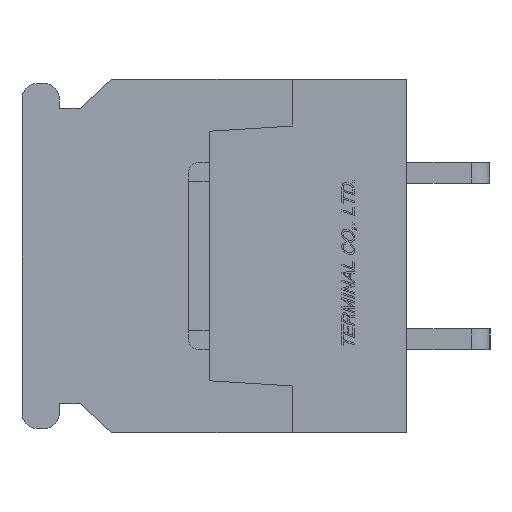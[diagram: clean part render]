
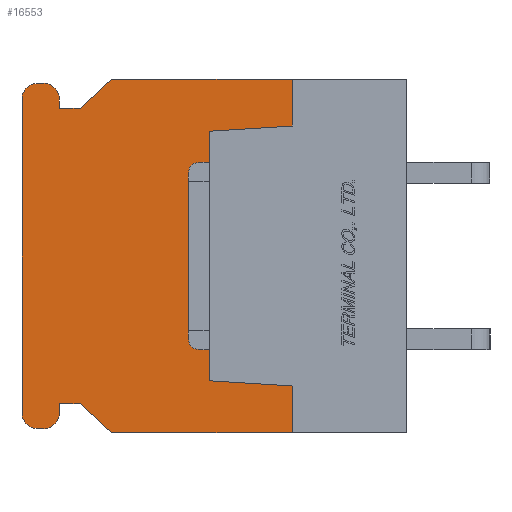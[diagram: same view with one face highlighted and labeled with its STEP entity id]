
A CAD part, left-side view. The second image highlights one B-rep face of the part: STEP entity #16553.
In plain terms, the highlighted planar face has unit normal (-1, 0, 0).
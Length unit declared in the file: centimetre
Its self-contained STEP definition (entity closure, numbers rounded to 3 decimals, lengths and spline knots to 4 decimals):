
#975=CIRCLE('',#28442,0.075);
#976=CIRCLE('',#28443,0.075);
#977=CIRCLE('',#28444,0.075);
#978=CIRCLE('',#28445,0.075);
#1745=VERTEX_POINT('',#23712);
#1746=VERTEX_POINT('',#23714);
#1790=VERTEX_POINT('',#23832);
#1791=VERTEX_POINT('',#23834);
#1937=VERTEX_POINT('',#24334);
#1938=VERTEX_POINT('',#24336);
#1939=VERTEX_POINT('',#24338);
#1940=VERTEX_POINT('',#24340);
#1941=VERTEX_POINT('',#24342);
#1942=VERTEX_POINT('',#24344);
#1943=VERTEX_POINT('',#24346);
#1944=VERTEX_POINT('',#24348);
#1945=VERTEX_POINT('',#24350);
#1946=VERTEX_POINT('',#24352);
#1947=VERTEX_POINT('',#24354);
#1948=VERTEX_POINT('',#24356);
#1949=VERTEX_POINT('',#24358);
#1950=VERTEX_POINT('',#24361);
#1951=VERTEX_POINT('',#24363);
#1952=VERTEX_POINT('',#24365);
#3368=VECTOR('',#19506,1.);
#3425=VECTOR('',#19589,1.);
#3638=VECTOR('',#20003,1.);
#3639=VECTOR('',#20004,1.);
#3640=VECTOR('',#20005,1.);
#3641=VECTOR('',#20006,1.);
#3642=VECTOR('',#20009,1.);
#3643=VECTOR('',#20012,1.);
#3644=VECTOR('',#20015,1.);
#3645=VECTOR('',#20018,1.);
#3646=VECTOR('',#20019,1.);
#3647=VECTOR('',#20020,1.);
#3648=VECTOR('',#20021,1.);
#3649=VECTOR('',#20022,1.);
#3650=VECTOR('',#20023,1.);
#3651=VECTOR('',#20024,1.);
#5230=LINE('',#23713,#3368);
#5287=LINE('',#23833,#3425);
#5500=LINE('',#24333,#3638);
#5501=LINE('',#24335,#3639);
#5502=LINE('',#24337,#3640);
#5503=LINE('',#24339,#3641);
#5504=LINE('',#24343,#3642);
#5505=LINE('',#24347,#3643);
#5506=LINE('',#24351,#3644);
#5507=LINE('',#24355,#3645);
#5508=LINE('',#24357,#3646);
#5509=LINE('',#24359,#3647);
#5510=LINE('',#24360,#3648);
#5511=LINE('',#24362,#3649);
#5512=LINE('',#24364,#3650);
#5513=LINE('',#24366,#3651);
#7466=EDGE_CURVE('',#1745,#1746,#5230,.T.);
#7527=EDGE_CURVE('',#1790,#1791,#5287,.T.);
#7780=EDGE_CURVE('',#1937,#1791,#5500,.T.);
#7781=EDGE_CURVE('',#1938,#1790,#5501,.T.);
#7782=EDGE_CURVE('',#1939,#1938,#5502,.T.);
#7783=EDGE_CURVE('',#1940,#1939,#5503,.T.);
#7784=EDGE_CURVE('',#1941,#1940,#975,.T.);
#7785=EDGE_CURVE('',#1942,#1941,#5504,.T.);
#7786=EDGE_CURVE('',#1943,#1942,#976,.T.);
#7787=EDGE_CURVE('',#1944,#1943,#5505,.T.);
#7788=EDGE_CURVE('',#1945,#1944,#977,.T.);
#7789=EDGE_CURVE('',#1946,#1945,#5506,.T.);
#7790=EDGE_CURVE('',#1947,#1946,#978,.T.);
#7791=EDGE_CURVE('',#1948,#1947,#5507,.T.);
#7792=EDGE_CURVE('',#1949,#1948,#5508,.T.);
#7793=EDGE_CURVE('',#1746,#1949,#5509,.T.);
#7794=EDGE_CURVE('',#1745,#1950,#5510,.T.);
#7795=EDGE_CURVE('',#1950,#1951,#5511,.T.);
#7796=EDGE_CURVE('',#1951,#1952,#5512,.T.);
#7797=EDGE_CURVE('',#1952,#1937,#5513,.T.);
#11582=ORIENTED_EDGE('',*,*,#7780,.T.);
#11583=ORIENTED_EDGE('',*,*,#7527,.F.);
#11584=ORIENTED_EDGE('',*,*,#7781,.F.);
#11585=ORIENTED_EDGE('',*,*,#7782,.F.);
#11586=ORIENTED_EDGE('',*,*,#7783,.F.);
#11587=ORIENTED_EDGE('',*,*,#7784,.F.);
#11588=ORIENTED_EDGE('',*,*,#7785,.F.);
#11589=ORIENTED_EDGE('',*,*,#7786,.F.);
#11590=ORIENTED_EDGE('',*,*,#7787,.F.);
#11591=ORIENTED_EDGE('',*,*,#7788,.F.);
#11592=ORIENTED_EDGE('',*,*,#7789,.F.);
#11593=ORIENTED_EDGE('',*,*,#7790,.F.);
#11594=ORIENTED_EDGE('',*,*,#7791,.F.);
#11595=ORIENTED_EDGE('',*,*,#7792,.F.);
#11596=ORIENTED_EDGE('',*,*,#7793,.F.);
#11597=ORIENTED_EDGE('',*,*,#7466,.F.);
#11598=ORIENTED_EDGE('',*,*,#7794,.T.);
#11599=ORIENTED_EDGE('',*,*,#7795,.T.);
#11600=ORIENTED_EDGE('',*,*,#7796,.T.);
#11601=ORIENTED_EDGE('',*,*,#7797,.T.);
#14513=EDGE_LOOP('',(#11582,#11583,#11584,#11585,#11586,#11587,#11588,#11589,
#11590,#11591,#11592,#11593,#11594,#11595,#11596,#11597,#11598,#11599,#11600,
#11601));
#15571=FACE_BOUND('',#14513,.T.);
#16553=ADVANCED_FACE('',(#15571),#17366,.F.);
#17366=PLANE('',#28441);
#19506=DIRECTION('',(0.,1.,0.));
#19589=DIRECTION('',(0.,-1.,0.));
#20002=DIRECTION('',(1.,0.,0.));
#20003=DIRECTION('',(0.,0.,1.));
#20004=DIRECTION('',(0.,-0.731,0.682));
#20005=DIRECTION('',(0.,-1.,0.));
#20006=DIRECTION('',(0.,0.,-1.));
#20007=DIRECTION('',(1.,0.,0.));
#20008=DIRECTION('',(0.,0.,-0.075));
#20009=DIRECTION('',(0.,-1.,0.));
#20010=DIRECTION('',(1.,0.,0.));
#20011=DIRECTION('',(0.,0.,-0.075));
#20012=DIRECTION('',(0.,0.,1.));
#20013=DIRECTION('',(1.,0.,0.));
#20014=DIRECTION('',(0.,0.,-0.075));
#20015=DIRECTION('',(0.,1.,0.));
#20016=DIRECTION('',(1.,0.,0.));
#20017=DIRECTION('',(0.,0.,-0.075));
#20018=DIRECTION('',(0.,0.,-1.));
#20019=DIRECTION('',(0.,1.,0.));
#20020=DIRECTION('',(0.,0.731,0.682));
#20021=DIRECTION('',(0.,0.,1.));
#20022=DIRECTION('',(0.,0.998,0.062));
#20023=DIRECTION('',(0.,0.,1.));
#20024=DIRECTION('',(0.,-0.998,0.062));
#23712=CARTESIAN_POINT('',(-1.,0.55,-0.85));
#23713=CARTESIAN_POINT('',(-1.,0.,-0.85));
#23714=CARTESIAN_POINT('',(-1.,1.42,-0.85));
#23832=CARTESIAN_POINT('',(-1.,1.42,0.85));
#23833=CARTESIAN_POINT('',(-1.,1.42,0.85));
#23834=CARTESIAN_POINT('',(-1.,0.55,0.85));
#24332=CARTESIAN_POINT('',(-1.,0.9383,0.));
#24333=CARTESIAN_POINT('',(-1.,0.55,0.3687));
#24334=CARTESIAN_POINT('',(-1.,0.55,0.625));
#24335=CARTESIAN_POINT('',(-1.,1.57,0.71));
#24336=CARTESIAN_POINT('',(-1.,1.57,0.71));
#24337=CARTESIAN_POINT('',(-1.,1.67,0.71));
#24338=CARTESIAN_POINT('',(-1.,1.67,0.71));
#24339=CARTESIAN_POINT('',(-1.,1.67,0.755));
#24340=CARTESIAN_POINT('',(-1.,1.67,0.755));
#24341=CARTESIAN_POINT('',(-1.,1.745,0.755));
#24342=CARTESIAN_POINT('',(-1.,1.745,0.83));
#24343=CARTESIAN_POINT('',(-1.,1.775,0.83));
#24344=CARTESIAN_POINT('',(-1.,1.775,0.83));
#24345=CARTESIAN_POINT('',(-1.,1.775,0.755));
#24346=CARTESIAN_POINT('',(-1.,1.85,0.755));
#24347=CARTESIAN_POINT('',(-1.,1.85,-0.755));
#24348=CARTESIAN_POINT('',(-1.,1.85,-0.755));
#24349=CARTESIAN_POINT('',(-1.,1.775,-0.755));
#24350=CARTESIAN_POINT('',(-1.,1.775,-0.83));
#24351=CARTESIAN_POINT('',(-1.,1.745,-0.83));
#24352=CARTESIAN_POINT('',(-1.,1.745,-0.83));
#24353=CARTESIAN_POINT('',(-1.,1.745,-0.755));
#24354=CARTESIAN_POINT('',(-1.,1.67,-0.755));
#24355=CARTESIAN_POINT('',(-1.,1.67,-0.71));
#24356=CARTESIAN_POINT('',(-1.,1.67,-0.71));
#24357=CARTESIAN_POINT('',(-1.,1.57,-0.71));
#24358=CARTESIAN_POINT('',(-1.,1.57,-0.71));
#24359=CARTESIAN_POINT('',(-1.,1.42,-0.85));
#24360=CARTESIAN_POINT('',(-1.,0.55,-0.3688));
#24361=CARTESIAN_POINT('',(-1.,0.55,-0.625));
#24362=CARTESIAN_POINT('',(-1.,0.8629,-0.6054));
#24363=CARTESIAN_POINT('',(-1.,0.95,-0.6));
#24364=CARTESIAN_POINT('',(-1.,0.95,0.));
#24365=CARTESIAN_POINT('',(-1.,0.95,0.6));
#24366=CARTESIAN_POINT('',(-1.,0.8629,0.6054));
#28441=AXIS2_PLACEMENT_3D('',#24332,#20002,$);
#28442=AXIS2_PLACEMENT_3D('',#24341,#20007,#20008);
#28443=AXIS2_PLACEMENT_3D('',#24345,#20010,#20011);
#28444=AXIS2_PLACEMENT_3D('',#24349,#20013,#20014);
#28445=AXIS2_PLACEMENT_3D('',#24353,#20016,#20017);
